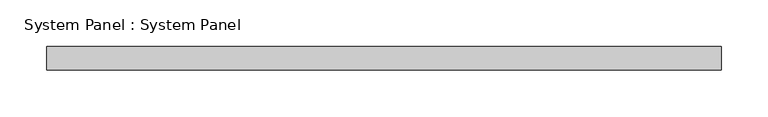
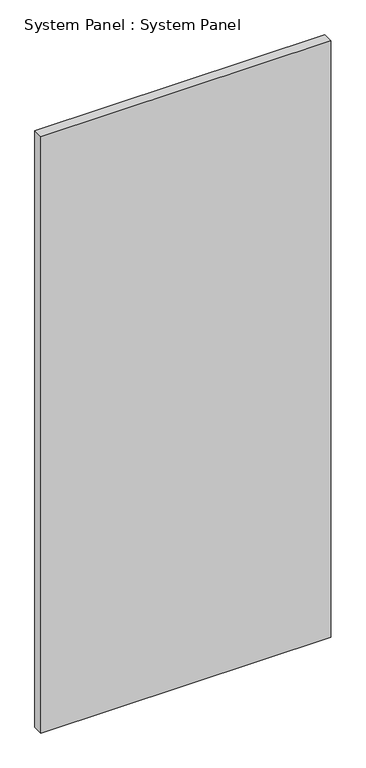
"""IFC4 building model written with IfcOpenShell, lengths in millimetres: plate geometry, System Panel : System Panel."""

import ifcopenshell
import ifcopenshell.guid

model = None  # the IFC model being written
_history = None  # IfcOwnerHistory: only IFC2X3 demands one
_inside = {}  # id of a spatial element -> (the spatial element, [elements in it])
_under = {}  # id of a project, library or spatial element -> (it, [spatial elements below it])
_declared = {}  # id of a project -> (the project, [libraries it declares])
_typed = {}  # id of a type object -> (the type object, [elements of that type])
_made_of = {}  # id of a material, layer set ... -> (it, [elements and type objects made of it])


def new_model(schema):
    """Start an empty IFC model of exactly this schema.

    Asked for "IFC4X3", IfcOpenShell would pick the latest addendum, in which some entities
    have other attributes; the version numbers below select the first issue.
    IFC2X3 requires an IfcOwnerHistory on every rooted entity: one is made here for all.
    """
    global model, _history
    if schema == "IFC4X3":
        model = ifcopenshell.file(schema_version=(4, 3, 0, 0))
    else:
        model = ifcopenshell.file(schema=schema)
    _inside.clear()
    _under.clear()
    _declared.clear()
    _typed.clear()
    _made_of.clear()
    _history = None
    if model.schema == "IFC2X3":
        org = make("IfcOrganization", Name="unknown")
        user = make(
            "IfcPersonAndOrganization",
            ThePerson=make("IfcPerson", FamilyName="unknown"),
            TheOrganization=org,
        )
        app = make(
            "IfcApplication",
            ApplicationDeveloper=org,
            Version="unknown",
            ApplicationFullName="unknown",
            ApplicationIdentifier="unknown",
        )
        _history = make(
            "IfcOwnerHistory",
            OwningUser=user,
            OwningApplication=app,
            ChangeAction="ADDED",
            CreationDate=0,
        )
    return model


def make(cls, **values):
    """One entity of the class cls with the attributes given. An attribute that is None is left unset."""
    return model.create_entity(
        cls, **{name: value for name, value in values.items() if value is not None}
    )


def rooted(cls, **values):
    """An entity with a GlobalId (a new one), such as an element, a storey or a relation."""
    return make(cls, GlobalId=ifcopenshell.guid.new(), OwnerHistory=_history, **values)


def si_unit(unit_type, name, prefix=None):
    """IfcSIUnit, for example si_unit("LENGTHUNIT", "METRE", prefix="MILLI")."""
    return make("IfcSIUnit", UnitType=unit_type, Prefix=prefix, Name=name)


def assignment(units):
    """IfcUnitAssignment: the units of a project."""
    return None if units is None else make("IfcUnitAssignment", Units=units)


def point(xyz):
    """IfcCartesianPoint."""
    return None if xyz is None else make("IfcCartesianPoint", Coordinates=xyz)


def direction(xyz):
    """IfcDirection."""
    return None if xyz is None else make("IfcDirection", DirectionRatios=xyz)


def frame(location, z_axis=None, x_axis=None):
    """IfcAxis2Placement3D, a coordinate frame: its origin and axes. An axis left out is left unset."""
    return make(
        "IfcAxis2Placement3D",
        Location=point(location),
        Axis=direction(z_axis),
        RefDirection=direction(x_axis),
    )


def origin():
    """The frame at (0, 0, 0) with its axes left unset."""
    return frame((0.0, 0.0, 0.0))


def origin_with_axes():
    """The frame at (0, 0, 0) with the z axis (0, 0, 1) and the x axis (1, 0, 0) written out."""
    return frame((0.0, 0.0, 0.0), z_axis=(0.0, 0.0, 1.0), x_axis=(1.0, 0.0, 0.0))


def place(relative_to, where):
    """IfcLocalPlacement: puts the frame where relative to a parent placement (None: the world)."""
    return make(
        "IfcLocalPlacement", PlacementRelTo=relative_to, RelativePlacement=where
    )


def context(
    kind, dimensions, precision=None, world=None, true_north=None, identifier=None
):
    """IfcGeometricRepresentationContext, for example the 3D "Model" context."""
    return make(
        "IfcGeometricRepresentationContext",
        ContextIdentifier=identifier,
        ContextType=kind,
        CoordinateSpaceDimension=dimensions,
        Precision=precision,
        WorldCoordinateSystem=world,
        TrueNorth=true_north,
    )


def project(units=None, contexts=None):
    """IfcProject with its units and contexts."""
    return rooted(
        "IfcProject",
        Name="project",
        RepresentationContexts=contexts,
        UnitsInContext=assignment(units),
    )


def spatial(cls, under=None, at=None, **own):
    """A site, building, storey or space (cls), placed at a placement, below another one or the project."""
    s = rooted(cls, ObjectPlacement=at, **own)
    if under is not None:
        _under.setdefault(under.id(), (under, []))[1].append(s)
    return s


def polyline(points):
    """IfcPolyline through the points."""
    return make("IfcPolyline", Points=[point(p) for p in points])


def outline(outer, holes=None, kind="AREA"):
    """IfcArbitraryClosedProfileDef: a profile drawn as a closed curve; with holes, ...WithVoids."""
    if holes is None:
        return make("IfcArbitraryClosedProfileDef", ProfileType=kind, OuterCurve=outer)
    return make(
        "IfcArbitraryProfileDefWithVoids",
        ProfileType=kind,
        OuterCurve=outer,
        InnerCurves=holes,
    )


def extrude(swept, where, along, depth):
    """IfcExtrudedAreaSolid: the profile swept, set in the frame where, extruded along a direction by depth."""
    return make(
        "IfcExtrudedAreaSolid",
        SweptArea=swept,
        Position=where,
        ExtrudedDirection=direction(along),
        Depth=depth,
    )


def shape(context_of_items, identifier, shape_type, items):
    """IfcShapeRepresentation: the items that make up one representation, for example the "Body"."""
    return make(
        "IfcShapeRepresentation",
        ContextOfItems=context_of_items,
        RepresentationIdentifier=identifier,
        RepresentationType=shape_type,
        Items=items,
    )


def source(mapping_origin, context_of_items, identifier, shape_type, items):
    """IfcRepresentationMap: a shape defined once, which mapped items show again and again."""
    return make(
        "IfcRepresentationMap",
        MappingOrigin=mapping_origin,
        MappedRepresentation=shape(context_of_items, identifier, shape_type, items),
    )


def transform(
    local_origin,
    x_axis=None,
    y_axis=None,
    z_axis=None,
    scale=None,
    scale2=None,
    scale3=None,
    uniform=True,
):
    """IfcCartesianTransformationOperator3D, or its non-uniform kind. x_axis, y_axis, z_axis: its Axis1, 2, 3."""
    if uniform:
        return make(
            "IfcCartesianTransformationOperator3D",
            Axis1=direction(x_axis),
            Axis2=direction(y_axis),
            LocalOrigin=point(local_origin),
            Scale=scale,
            Axis3=direction(z_axis),
        )
    return make(
        "IfcCartesianTransformationOperator3DnonUniform",
        Axis1=direction(x_axis),
        Axis2=direction(y_axis),
        LocalOrigin=point(local_origin),
        Scale=scale,
        Axis3=direction(z_axis),
        Scale2=scale2,
        Scale3=scale3,
    )


def mapped(mapping_source, mapping_target):
    """IfcMappedItem: shows the shape of a source again, moved by a transform."""
    return make(
        "IfcMappedItem", MappingSource=mapping_source, MappingTarget=mapping_target
    )


def made_of(thing, what):
    """Note that an element or type object is made of a material, layer set ...; save() writes the relation."""
    if what is not None:
        _made_of.setdefault(what.id(), (what, []))[1].append(thing)
    return thing


def element(
    cls,
    number,
    at=None,
    inside=None,
    cuts=None,
    type_object=None,
    material=None,
    context=None,
    identifier="Body",
    shape_type=None,
    held_by="IfcProductDefinitionShape",
    body=None,
    shapes=None,
    **own,
):
    """One element of the class cls, such as IfcWall. Its Tag is "e" and its number.

    at: its placement. inside: the storey or other place that contains it. cuts: it is an
    opening in that element (IfcRelVoidsElement). A single representation is given by context,
    identifier, shape_type and body (its items); several are given by shapes. held_by: the class
    of the entity that holds the representations. save() writes the other relations.
    """
    e = rooted(cls, Tag="e%d" % number, ObjectPlacement=at, **own)
    if body is not None:
        shapes = [shape(context, identifier, shape_type, body)]
    if shapes is not None:
        e.Representation = make(held_by, Representations=shapes)
    if inside is not None:
        _inside.setdefault(inside.id(), (inside, []))[1].append(e)
    if cuts is not None:
        rooted(
            "IfcRelVoidsElement", RelatingBuildingElement=cuts, RelatedOpeningElement=e
        )
    if type_object is not None:
        _typed.setdefault(type_object.id(), (type_object, []))[1].append(e)
    return made_of(e, material)


def aggregate(whole, parts):
    """IfcRelAggregates: a whole, such as a stair, and the parts it consists of."""
    return rooted("IfcRelAggregates", RelatingObject=whole, RelatedObjects=parts)


def save(model, path):
    """Write the relations noted so far, then the file.

    IfcRelAggregates (storeys below a building ...), IfcRelContainedInSpatialStructure (elements
    in a storey), IfcRelDefinesByType, IfcRelAssociatesMaterial and IfcRelDeclares: one each for
    every whole, place, type object, material and project.
    """
    for whole, parts in _under.values():
        aggregate(whole, parts)
    for where, things in _inside.values():
        rooted(
            "IfcRelContainedInSpatialStructure",
            RelatedElements=things,
            RelatingStructure=where,
        )
    for kind, things in _typed.values():
        rooted("IfcRelDefinesByType", RelatedObjects=things, RelatingType=kind)
    for what, things in _made_of.values():
        rooted("IfcRelAssociatesMaterial", RelatedObjects=things, RelatingMaterial=what)
    for by, libraries in _declared.values():
        rooted("IfcRelDeclares", RelatingContext=by, RelatedDefinitions=libraries)
    model.write(path)


def system_panel_system_panel_e46ad46d(model_context):
    return source(origin(), model_context, "Body", "SweptSolid", [
        extrude(outline(polyline([(361.95, 19.05), (-361.95, 19.05), (-361.95, 44.45), (361.95, 44.45), (361.95, 19.05)])), origin_with_axes(), (0.0, 0.0, 1.0), 1574.8),
    ])


if __name__ == "__main__":
    model = new_model("IFC4")
    model_context = context("Model", 3, world=origin())
    ifc_project = project(units=[si_unit("LENGTHUNIT", "METRE", prefix="MILLI")], contexts=[model_context])
    site = spatial("IfcSite", under=ifc_project)
    building = spatial("IfcBuilding", under=site)
    placement = place(None, origin())
    system_panel_system_panel_shape = system_panel_system_panel_e46ad46d(model_context)
    element("IfcPlate", 1, ObjectType="System Panel : System Panel", at=placement, inside=building, context=model_context, shape_type="MappedRepresentation", body=[
        mapped(system_panel_system_panel_shape, transform((0.0, 0.0, 0.0), x_axis=(1.0, 0.0, 0.0), y_axis=(0.0, 1.0, 0.0), z_axis=(0.0, 0.0, 1.0))),
    ])
    save(model, "model.ifc")
